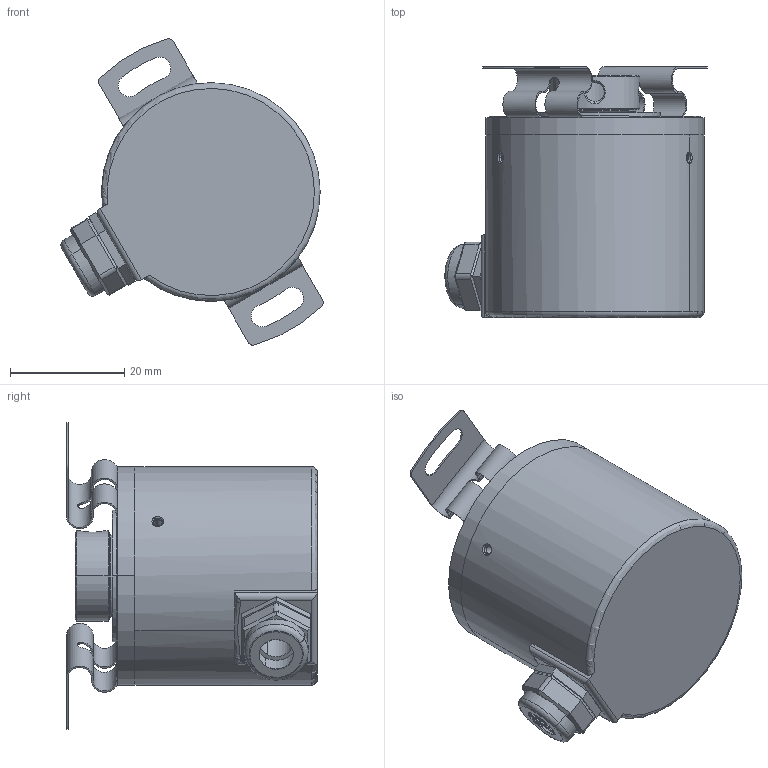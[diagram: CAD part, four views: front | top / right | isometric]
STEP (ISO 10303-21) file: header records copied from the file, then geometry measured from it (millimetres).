
FILE_DESCRIPTION (( 'STEP AP214' ), '1' );
FILE_NAME ('K3808.STEP', '2025-01-06T02:58:47', ( 'Windows User' ), ( 'P R C' ), 'SwSTEP 2.0', 'SolidWorks 2020', '' );
FILE_SCHEMA (( 'AUTOMOTIVE_DESIGN' ));
Length unit declared in the file: millimetre
Products named in the file (10): K38AB翉璃翋极; 耳6棠沺迖-橈勤棠萇3806迖; 滅阨芛; K38S型弹片_默认SM-FLAT-PATTERN; GB／T276-94深沟球轴承61801-2Z; GTS06俋褲; 滅阨芛簽; 耳8圉諾粣-K3808-橈勤硉詩粣; GB／T276-94深沟球轴承619／6-2Z; K3808
Assembly tree (9 placements, depth 2):
  K3808
    K38AB翉璃翋极
    GB／T276-94深沟球轴承61801-2Z
    GB／T276-94深沟球轴承619／6-2Z
    耳8圉諾粣-K3808-橈勤硉詩粣
    耳6棠沺迖-橈勤棠萇3806迖
    GTS06俋褲
    K38S型弹片_默认SM-FLAT-PATTERN
    滅阨芛
    滅阨芛簽
Bounding box: 45.97 x 44 x 53.71 mm (x, y, z)
Volume: 18927.3 mm3; surface area: 24792.4 mm2
Topology: 9 solids, 9 shells, 828 faces, 2366 edges, 1526 vertices
Faces by surface type: cylinder 259, plane 203, sphere 176, torus 88, cone 73, bspline 29
Entity records: 40194 total; most frequent: CARTESIAN_POINT 15878, ORIENTED_EDGE 4696, DIRECTION 4031, EDGE_CURVE 2348, AXIS2_PLACEMENT_3D 1729, VERTEX_POINT 1526, EDGE_LOOP 940, CIRCLE 918
